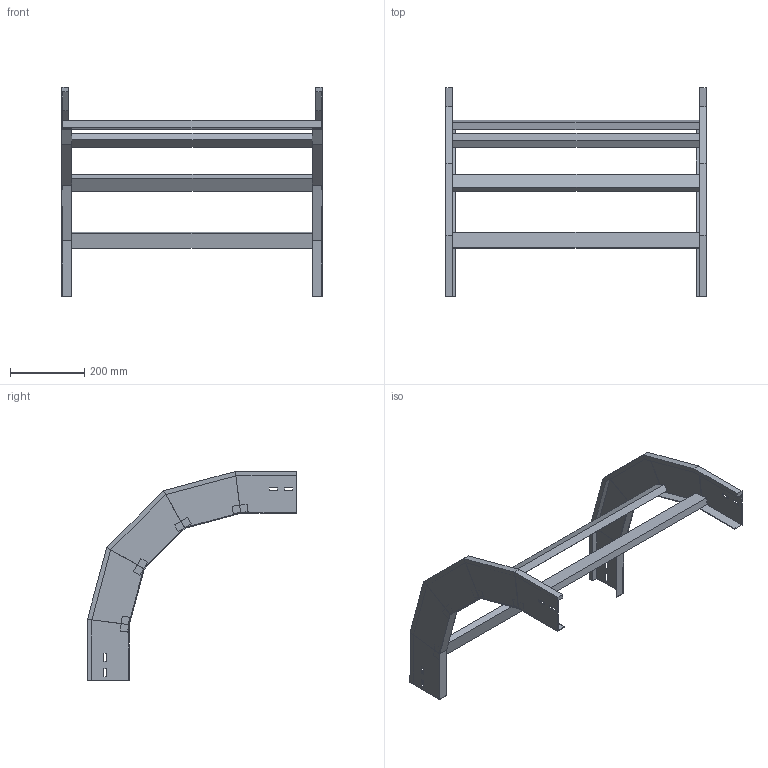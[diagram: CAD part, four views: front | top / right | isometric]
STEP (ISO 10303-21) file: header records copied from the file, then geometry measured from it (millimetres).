
FILE_DESCRIPTION (( 'STEP AP214' ), '1' );
FILE_NAME ('A2_33B3J700.step', '2025-02-21T15:03:48', ( '' ), ( '' ), 'SwSTEP 2.0', 'SolidWorks 2023', '' );
FILE_SCHEMA (( 'AUTOMOTIVE_DESIGN' ));
Length unit declared in the file: millimetre
Products named in the file (3): A2_33B3J700; LONGH.DISCESA_90°_H112.5_R300; TRAVERSINO_700
Assembly tree (6 placements, depth 2):
  A2_33B3J700
    LONGH.DISCESA_90°_H112.5_R300  x2
    TRAVERSINO_700  x4
Bounding box: 700 x 561.94 x 561.94 mm (x, y, z)
Volume: 3073074 mm3; surface area: 871739.5 mm2
Topology: 6 solids, 6 shells, 140 faces, 320 edges, 192 vertices
Faces by surface type: plane 140
Entity records: 1872 total; most frequent: CARTESIAN_POINT 309, ORIENTED_EDGE 296, DIRECTION 294, VECTOR 148, LINE 148, EDGE_CURVE 148, VERTEX_POINT 88, AXIS2_PLACEMENT_3D 73
